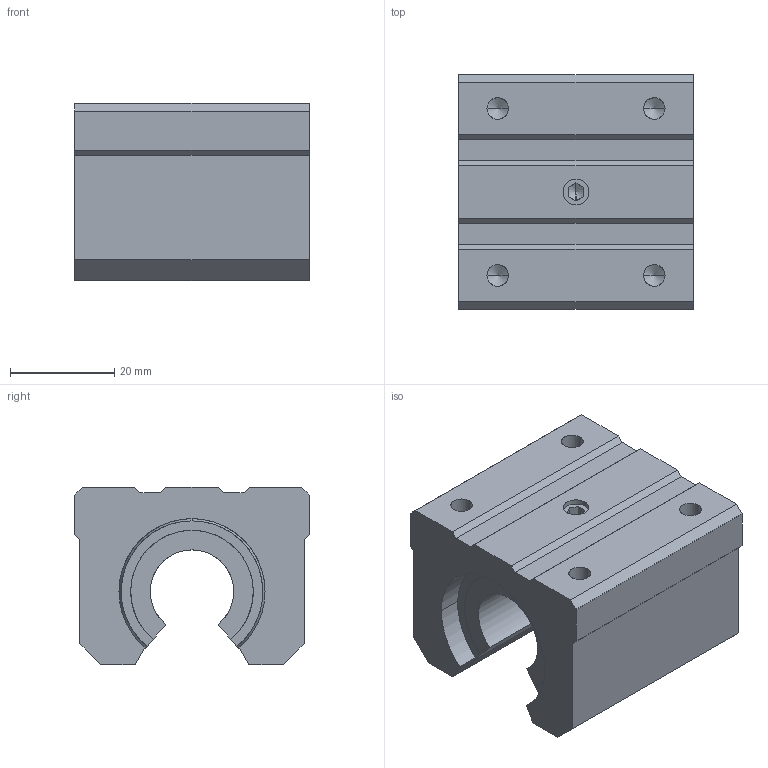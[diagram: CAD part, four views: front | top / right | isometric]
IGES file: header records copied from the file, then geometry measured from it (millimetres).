
Global section: file name: No Iges File Name specified; native system: AutoDesk Inventor R10; preprocessor: AutoDesk Inventor Iges Exporter R10; author: No Author specified; organization: No Organization specified; date: 20101221.091322; units: millimetre
Bounding box: 45 x 45 x 34 mm (x, y, z)
Surface area: 12423.9 mm2 (no closed solid volume)
Topology: 0 solids, 0 shells, 94 faces, 620 edges, 610 vertices
Faces by surface type: bspline 94
